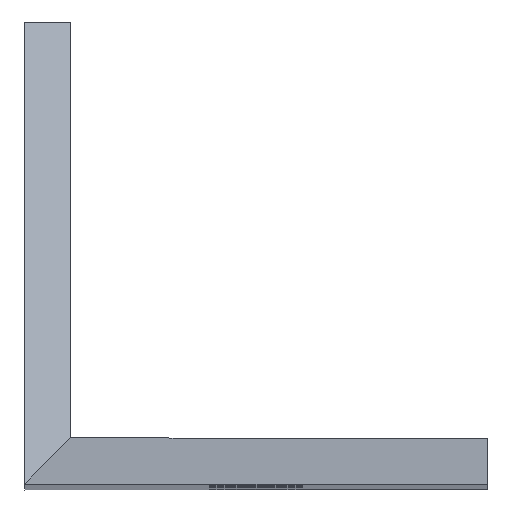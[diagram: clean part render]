
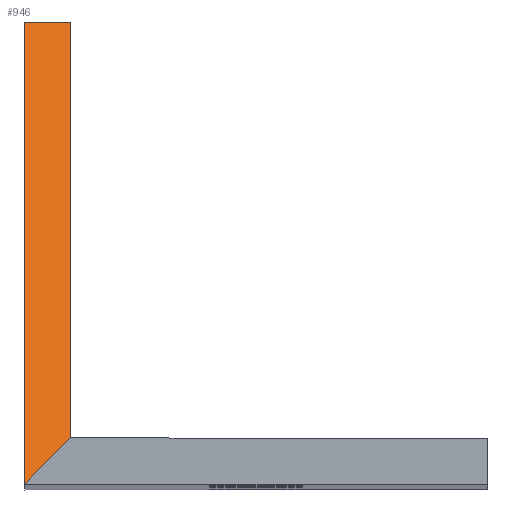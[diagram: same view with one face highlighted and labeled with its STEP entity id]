
A CAD part, top view. The second image highlights one B-rep face of the part: STEP entity #946.
In plain terms, the highlighted planar face has unit normal (0, 0.707, 0.707).
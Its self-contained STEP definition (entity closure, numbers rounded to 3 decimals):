
#22 = CARTESIAN_POINT ( 'NONE',  ( 0., 20., 127.8 ) ) ;
#45 = CARTESIAN_POINT ( 'NONE',  ( 0., 0., 147.8 ) ) ;
#52 = CARTESIAN_POINT ( 'NONE',  ( 2., 2., 145.8 ) ) ;
#141 = CARTESIAN_POINT ( 'NONE',  ( 2., 20., 127.8 ) ) ;
#303 = EDGE_CURVE ( 'NONE', #1565, #1560, #1227, .T. ) ;
#308 = EDGE_CURVE ( 'NONE', #1524, #1577, #1224, .T. ) ;
#326 = EDGE_CURVE ( 'NONE', #1560, #1577, #1262, .T. ) ;
#341 = EDGE_CURVE ( 'NONE', #1565, #1524, #1210, .T. ) ;
#420 = AXIS2_PLACEMENT_3D ( 'NONE', #1007, #1001, #1004 ) ;
#485 = CARTESIAN_POINT ( 'NONE',  ( 2., 0., 147.8 ) ) ;
#687 = DIRECTION ( 'NONE',  ( 0., -0.707, 0.707 ) ) ;
#815 = DIRECTION ( 'NONE',  ( 0., -0.707, 0.707 ) ) ;
#817 = CARTESIAN_POINT ( 'NONE',  ( 0., 0., 147.8 ) ) ;
#946 = ADVANCED_FACE ( 'NONE', ( #1284 ), #997, .F. ) ;
#997 = PLANE ( 'NONE',  #420 ) ;
#1001 = DIRECTION ( 'NONE',  ( 0., -0.707, -0.707 ) ) ;
#1004 = DIRECTION ( 'NONE',  ( 0., 0.707, -0.707 ) ) ;
#1007 = CARTESIAN_POINT ( 'NONE',  ( 2., 0., 147.8 ) ) ;
#1062 = CARTESIAN_POINT ( 'NONE',  ( 0., 20., 127.8 ) ) ;
#1076 = DIRECTION ( 'NONE',  ( 1., 0., 0. ) ) ;
#1084 = CARTESIAN_POINT ( 'NONE',  ( 0.667, 0.667, 147.133 ) ) ;
#1086 = DIRECTION ( 'NONE',  ( 0.577, 0.577, -0.577 ) ) ;
#1210 = LINE ( 'NONE', #1062, #1211 ) ;
#1211 = VECTOR ( 'NONE', #1076, 1000. ) ;
#1224 = LINE ( 'NONE', #485, #1260 ) ;
#1227 = LINE ( 'NONE', #817, #1253 ) ;
#1234 = VECTOR ( 'NONE', #1086, 1000. ) ;
#1253 = VECTOR ( 'NONE', #815, 1000. ) ;
#1260 = VECTOR ( 'NONE', #687, 1000. ) ;
#1262 = LINE ( 'NONE', #1084, #1234 ) ;
#1284 = FACE_OUTER_BOUND ( 'NONE', #1463, .T. ) ;
#1463 = EDGE_LOOP ( 'NONE', ( #1866, #1852, #1830, #1833 ) ) ;
#1524 = VERTEX_POINT ( 'NONE', #141 ) ;
#1560 = VERTEX_POINT ( 'NONE', #45 ) ;
#1565 = VERTEX_POINT ( 'NONE', #22 ) ;
#1577 = VERTEX_POINT ( 'NONE', #52 ) ;
#1830 = ORIENTED_EDGE ( 'NONE', *, *, #308, .F. ) ;
#1833 = ORIENTED_EDGE ( 'NONE', *, *, #341, .F. ) ;
#1852 = ORIENTED_EDGE ( 'NONE', *, *, #326, .T. ) ;
#1866 = ORIENTED_EDGE ( 'NONE', *, *, #303, .T. ) ;
